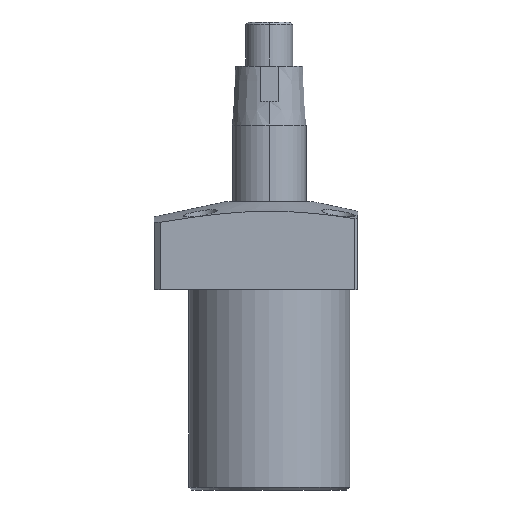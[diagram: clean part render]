
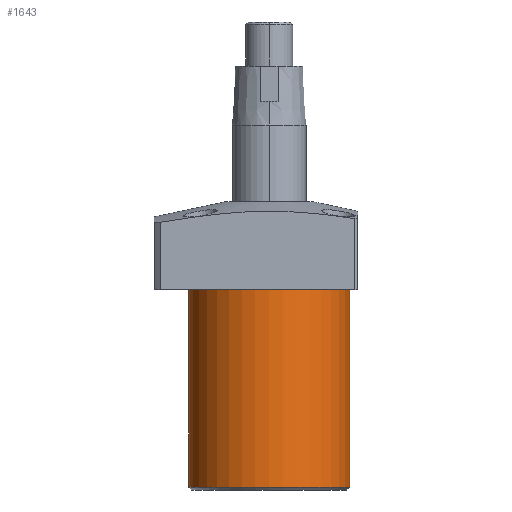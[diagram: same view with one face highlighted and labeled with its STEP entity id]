
A CAD part, front view. The second image highlights one B-rep face of the part: STEP entity #1643.
In plain terms, the highlighted cylindrical face has radius 27.4 mm (diameter 54.8 mm), a partial arc.
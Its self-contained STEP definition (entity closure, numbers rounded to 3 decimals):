
#147 = AXIS2_PLACEMENT_3D ( 'NONE', #2508, #545, #946 ) ;
#256 = DIRECTION ( 'NONE',  ( 1., 0., 0. ) ) ;
#398 = VERTEX_POINT ( 'NONE', #1049 ) ;
#521 = VECTOR ( 'NONE', #2545, 1000. ) ;
#538 = EDGE_CURVE ( 'NONE', #2062, #1490, #765, .T. ) ;
#545 = DIRECTION ( 'NONE',  ( 0., 0., -1. ) ) ;
#765 = CIRCLE ( 'NONE', #1991, 27.4 ) ;
#799 = CARTESIAN_POINT ( 'NONE',  ( 27.4, 0., 68. ) ) ;
#930 = EDGE_LOOP ( 'NONE', ( #968, #1315, #1576, #1708 ) ) ;
#942 = VECTOR ( 'NONE', #2139, 1000. ) ;
#946 = DIRECTION ( 'NONE',  ( -1., 0., 0. ) ) ;
#968 = ORIENTED_EDGE ( 'NONE', *, *, #2117, .F. ) ;
#1049 = CARTESIAN_POINT ( 'NONE',  ( -27.4, 0., 68. ) ) ;
#1059 = CIRCLE ( 'NONE', #1268, 27.4 ) ;
#1200 = CARTESIAN_POINT ( 'NONE',  ( 0., 0., 68. ) ) ;
#1244 = DIRECTION ( 'NONE',  ( 0., 0., 1. ) ) ;
#1250 = CARTESIAN_POINT ( 'NONE',  ( 27.4, 0., 1. ) ) ;
#1268 = AXIS2_PLACEMENT_3D ( 'NONE', #1200, #1558, #2357 ) ;
#1315 = ORIENTED_EDGE ( 'NONE', *, *, #2211, .F. ) ;
#1336 = FACE_OUTER_BOUND ( 'NONE', #930, .T. ) ;
#1352 = LINE ( 'NONE', #2362, #521 ) ;
#1490 = VERTEX_POINT ( 'NONE', #1250 ) ;
#1558 = DIRECTION ( 'NONE',  ( 0., 0., 1. ) ) ;
#1576 = ORIENTED_EDGE ( 'NONE', *, *, #2552, .T. ) ;
#1643 = ADVANCED_FACE ( 'NONE', ( #1336 ), #1714, .T. ) ;
#1668 = CARTESIAN_POINT ( 'NONE',  ( 0., 0., 1. ) ) ;
#1708 = ORIENTED_EDGE ( 'NONE', *, *, #538, .T. ) ;
#1714 = CYLINDRICAL_SURFACE ( 'NONE', #147, 27.4 ) ;
#1738 = CARTESIAN_POINT ( 'NONE',  ( 27.4, 0., 68. ) ) ;
#1821 = VERTEX_POINT ( 'NONE', #799 ) ;
#1906 = LINE ( 'NONE', #1738, #942 ) ;
#1991 = AXIS2_PLACEMENT_3D ( 'NONE', #1668, #1244, #256 ) ;
#2055 = CARTESIAN_POINT ( 'NONE',  ( -27.4, 0., 1. ) ) ;
#2062 = VERTEX_POINT ( 'NONE', #2055 ) ;
#2117 = EDGE_CURVE ( 'NONE', #1821, #1490, #1906, .T. ) ;
#2139 = DIRECTION ( 'NONE',  ( 0., 0., -1. ) ) ;
#2211 = EDGE_CURVE ( 'NONE', #398, #1821, #1059, .T. ) ;
#2357 = DIRECTION ( 'NONE',  ( 1., 0., 0. ) ) ;
#2362 = CARTESIAN_POINT ( 'NONE',  ( -27.4, 0., 68. ) ) ;
#2508 = CARTESIAN_POINT ( 'NONE',  ( 0., 0., 68. ) ) ;
#2545 = DIRECTION ( 'NONE',  ( 0., 0., -1. ) ) ;
#2552 = EDGE_CURVE ( 'NONE', #398, #2062, #1352, .T. ) ;
